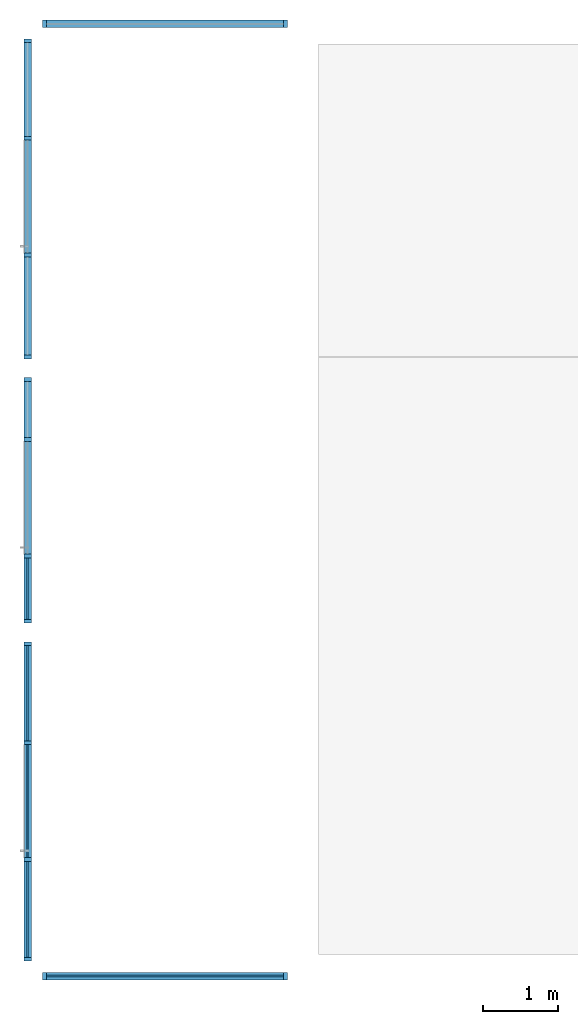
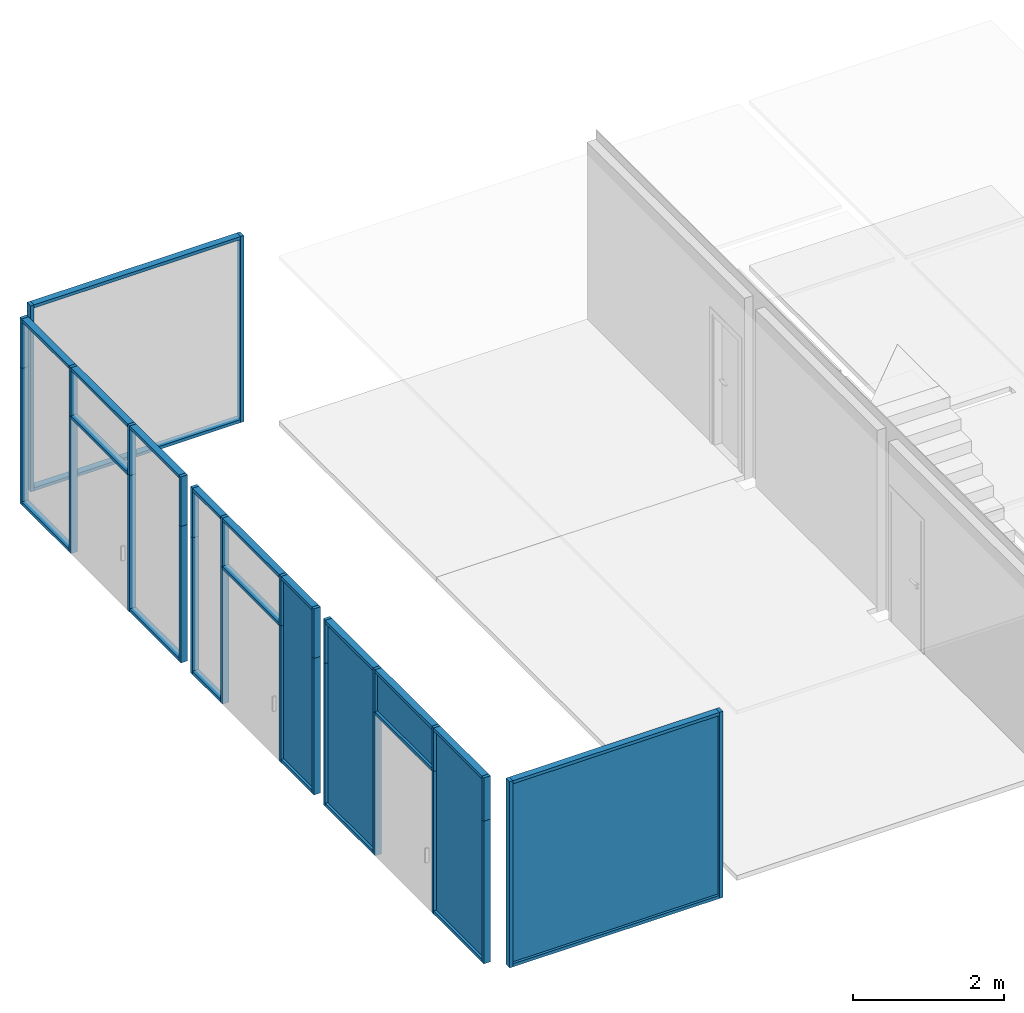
# One storey, part 1 of 4: 50 members, 5 plates, 5 elements without a shape of their own.
"""IFC2X3 building model written with IfcOpenShell, lengths in metres."""

from ifc_helpers import new_model, entity, si_unit, converted_unit, derived_unit, direction, frame, frame_2d, origin, origin_2d_with_axis, place, context, subcontext, project, spatial, rectangle, extrude, source, transform, mapped, material, type_object, type_shapes, element, aggregate, save


model = new_model("IFC2X3")

# Units and contexts
model_context = context("Model", 3, precision=1e-05, world=origin(), true_north=direction((6.12303176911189e-17, 1.0)))
context_of_model = context(None, 3, precision=1e-05, world=origin(), true_north=direction((6.12303176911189e-17, 1.0)))
body_context = subcontext(model_context, "Body", "Model", "MODEL_VIEW")
ifc_project = project(units=[si_unit("LENGTHUNIT", "METRE"), si_unit("AREAUNIT", "SQUARE_METRE"), si_unit("VOLUMEUNIT", "CUBIC_METRE"), converted_unit("PLANEANGLEUNIT", "DEGREE", entity("IfcRatioMeasure", 0.0174532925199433), si_unit("PLANEANGLEUNIT", "RADIAN"), dimensions=[0, 0, 0, 0, 0, 0, 0]), si_unit("MASSUNIT", "GRAM", prefix="KILO"), si_unit("TIMEUNIT", "SECOND"), si_unit("FREQUENCYUNIT", "HERTZ"), si_unit("THERMODYNAMICTEMPERATUREUNIT", "DEGREE_CELSIUS"), derived_unit("THERMALTRANSMITTANCEUNIT", [(si_unit("MASSUNIT", "GRAM", prefix="KILO"), 1), (si_unit("THERMODYNAMICTEMPERATUREUNIT", "KELVIN"), -1), (si_unit("TIMEUNIT", "SECOND"), -3)]), derived_unit("VOLUMETRICFLOWRATEUNIT", [(si_unit("LENGTHUNIT", "METRE"), 3), (si_unit("TIMEUNIT", "SECOND"), -1)]), si_unit("ELECTRICCURRENTUNIT", "AMPERE"), si_unit("ELECTRICVOLTAGEUNIT", "VOLT"), si_unit("POWERUNIT", "WATT"), si_unit("FORCEUNIT", "NEWTON", prefix="KILO"), si_unit("ILLUMINANCEUNIT", "LUX"), si_unit("LUMINOUSFLUXUNIT", "LUMEN"), si_unit("LUMINOUSINTENSITYUNIT", "CANDELA"), si_unit("PRESSUREUNIT", "PASCAL")], contexts=[model_context, context_of_model])

# Site, building, storey
site_placement = place(None, origin())
site = spatial("IfcSite", under=ifc_project, at=site_placement, Name="Default", CompositionType="ELEMENT")
building_placement = place(site_placement, origin())
building = spatial("IfcBuilding", under=site, at=building_placement, CompositionType="ELEMENT")
storey_placement = place(building_placement, frame((0.0, 0.0, 0.2)))
storey = spatial("IfcBuildingStorey", under=building, at=storey_placement, Name="01.AR.PLANTA BAJA ACAB.SUELO", CompositionType="ELEMENT", Elevation=0.2)

# Curtain wall, members
curtain_wall_type = type_object("IfcCurtainWallType", Name="Muro cortina:Muro cortina - simple", PredefinedType="NOTDEFINED")
curtain_wall_1_placement = place(storey_placement, frame((0.0, 0.0, -0.2)))
curtain_wall_1 = element("IfcCurtainWall", 1, at=curtain_wall_1_placement, inside=storey, type_object=curtain_wall_type, Name="Muro cortina:Muro cortina - simple", ObjectType="Muro cortina:Muro cortina - simple")
member_1_placement = place(curtain_wall_1_placement, frame((0.0, 0.0, 0.2)))
member_1 = element("IfcMember", 2, at=member_1_placement, Name="Muro cortina:Muro cortina - simple", ObjectType="Muro cortina:Muro cortina - simple", context=body_context, shape_type="SweptSolid", body=[
    extrude(rectangle(XDim=0.05, YDim=0.1, at=frame_2d((0.0, -6.93889390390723e-17), x_axis=(1.0, 0.0))), frame((0.750000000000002, 0.524999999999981, 3.0), z_axis=(0.0, 0.0, -1.0), x_axis=(-1.0, 0.0, 0.0)), (0.0, 0.0, 1.0), 3.0),
])
member_2_placement = place(curtain_wall_1_placement, frame((0.0, 0.0, 0.2)))
member_2 = element("IfcMember", 3, at=member_2_placement, Name="Muro cortina:Muro cortina - simple", ObjectType="Muro cortina:Muro cortina - simple", context=body_context, shape_type="SweptSolid", body=[
    extrude(rectangle(XDim=0.05, YDim=0.1, at=frame_2d((2.70616862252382e-16, 1.01516017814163e-14), x_axis=(1.0, 0.0))), frame((3.92499999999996, 0.524999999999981, 2.975), z_axis=(-1.0, 0.0, 0.0), x_axis=(0.0, 0.0, -1.0)), (0.0, 0.0, 1.0), 3.14999999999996),
])
member_3_placement = place(curtain_wall_1_placement, frame((0.0, 0.0, 0.2)))
member_3 = element("IfcMember", 4, at=member_3_placement, Name="Muro cortina:Muro cortina - simple", ObjectType="Muro cortina:Muro cortina - simple", context=body_context, shape_type="SweptSolid", body=[
    extrude(rectangle(XDim=0.05, YDim=0.1, at=frame_2d((2.70616862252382e-16, 0.0), x_axis=(1.0, 0.0))), frame((3.94999999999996, 0.52499999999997, 0.0), z_axis=(0.0, 0.0, 1.0), x_axis=(-1.0, 0.0, 0.0)), (0.0, 0.0, 1.0), 3.0),
])
member_4_placement = place(curtain_wall_1_placement, frame((0.0, 0.0, 0.2)))
member_4 = element("IfcMember", 5, at=member_4_placement, Name="Muro cortina:Muro cortina - simple", ObjectType="Muro cortina:Muro cortina - simple", context=body_context, shape_type="SweptSolid", body=[
    extrude(rectangle(XDim=0.05, YDim=0.1, at=frame_2d((0.0, 1.01516017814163e-14), x_axis=(1.0, 0.0))), frame((0.775000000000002, 0.52499999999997, 0.025), z_axis=(1.0, 0.0, 0.0), x_axis=(0.0, 0.0, -1.0)), (0.0, 0.0, 1.0), 3.14999999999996),
])

curtain_wall_2_placement = place(storey_placement, frame((0.0, 0.0, -0.2)))
curtain_wall_2 = element("IfcCurtainWall", 6, at=curtain_wall_2_placement, inside=storey, type_object=curtain_wall_type, Name="Muro cortina:Muro cortina - simple", ObjectType="Muro cortina:Muro cortina - simple")
member_5_placement = place(curtain_wall_2_placement, frame((0.0, 0.0, 0.2)))
member_5 = element("IfcMember", 7, at=member_5_placement, Name="Muro cortina:Muro cortina - simple", ObjectType="Muro cortina:Muro cortina - simple", context=body_context, shape_type="SweptSolid", body=[
    extrude(rectangle(XDim=0.1, YDim=0.05, at=frame_2d((3.46944695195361e-17, 0.0), x_axis=(1.0, 0.0))), frame((0.524999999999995, 0.750000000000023, 3.0), z_axis=(0.0, 0.0, -1.0), x_axis=(-1.0, 0.0, 0.0)), (0.0, 0.0, 1.0), 0.7),
])
member_6_placement = place(curtain_wall_2_placement, frame((0.0, 0.0, 0.2)))
member_6 = element("IfcMember", 8, at=member_6_placement, Name="Muro cortina:Muro cortina - simple", ObjectType="Muro cortina:Muro cortina - simple", context=body_context, shape_type="SweptSolid", body=[
    extrude(rectangle(XDim=0.05, YDim=0.1, at=frame_2d((2.70616862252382e-16, 0.0), x_axis=(1.0, 0.0))), frame((0.525000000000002, 4.91506108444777, 2.975), z_axis=(0.0, -1.0, 0.0), x_axis=(0.0, 0.0, -1.0)), (0.0, 0.0, 1.0), 1.265),
])
member_7_placement = place(curtain_wall_2_placement, frame((0.0, 0.0, 0.2)))
member_7 = element("IfcMember", 9, at=member_7_placement, Name="Muro cortina:Muro cortina - simple", ObjectType="Muro cortina:Muro cortina - simple", context=body_context, shape_type="SweptSolid", body=[
    extrude(rectangle(XDim=0.1, YDim=0.0500000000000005, at=frame_2d((-3.46944695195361e-17, -5.41233724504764e-16), x_axis=(1.0, 0.0))), frame((0.525000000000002, 4.94006108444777, 0.0), z_axis=(0.0, 0.0, 1.0), x_axis=(-1.0, 0.0, 0.0)), (0.0, 0.0, 1.0), 2.3),
])
member_8_placement = place(curtain_wall_2_placement, frame((0.0, 0.0, 0.2)))
member_8 = element("IfcMember", 10, at=member_8_placement, Name="Muro cortina:Muro cortina - simple", ObjectType="Muro cortina:Muro cortina - simple", context=body_context, shape_type="SweptSolid", body=[
    extrude(rectangle(XDim=0.05, YDim=0.1, at=origin_2d_with_axis()), frame((0.524999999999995, 0.775000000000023, 0.025), z_axis=(0.0, 1.0, 0.0), x_axis=(0.0, 0.0, -1.0)), (0.0, 0.0, 1.0), 1.27506108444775),
])
member_9_placement = place(curtain_wall_2_placement, frame((0.0, 0.0, 0.2)))
member_9 = element("IfcMember", 11, at=member_9_placement, Name="Muro cortina:Muro cortina - simple", ObjectType="Muro cortina:Muro cortina - simple", context=body_context, shape_type="SweptSolid", body=[
    extrude(rectangle(XDim=0.05, YDim=0.1, at=origin_2d_with_axis()), frame((0.525, 3.65006108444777, 0.025), z_axis=(0.0, 1.0, 0.0), x_axis=(0.0, 0.0, -1.0)), (0.0, 0.0, 1.0), 1.265),
])
member_10_placement = place(curtain_wall_2_placement, frame((0.0, 0.0, 0.2)))
member_10 = element("IfcMember", 12, at=member_10_placement, Name="Muro cortina:Muro cortina - simple", ObjectType="Muro cortina:Muro cortina - simple", context=body_context, shape_type="SweptSolid", body=[
    extrude(rectangle(XDim=0.05, YDim=0.1, at=frame_2d((2.70616862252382e-16, 0.0), x_axis=(1.0, 0.0))), frame((0.524999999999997, 2.05006108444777, 2.975), z_axis=(0.0, -1.0, 0.0), x_axis=(0.0, 0.0, -1.0)), (0.0, 0.0, 1.0), 1.27506108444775),
])
member_11_placement = place(curtain_wall_2_placement, frame((0.0, 0.0, 0.2)))
member_11 = element("IfcMember", 13, at=member_11_placement, Name="Muro cortina:Muro cortina - simple", ObjectType="Muro cortina:Muro cortina - simple", context=body_context, shape_type="SweptSolid", body=[
    extrude(rectangle(XDim=0.1, YDim=0.0499999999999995, at=origin_2d_with_axis()), frame((0.525, 3.62506108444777, 0.0), z_axis=(0.0, 0.0, 1.0), x_axis=(-1.0, 0.0, 0.0)), (0.0, 0.0, 1.0), 2.3),
])
member_12_placement = place(curtain_wall_2_placement, frame((0.0, 0.0, 0.2)))
member_12 = element("IfcMember", 14, at=member_12_placement, Name="Muro cortina:Muro cortina - simple", ObjectType="Muro cortina:Muro cortina - simple", context=body_context, shape_type="SweptSolid", body=[
    extrude(rectangle(XDim=0.1, YDim=0.05, at=frame_2d((0.0, 2.70616862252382e-16), x_axis=(1.0, 0.0))), frame((0.524999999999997, 2.07506108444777, 0.0), z_axis=(0.0, 0.0, 1.0), x_axis=(-1.0, 0.0, 0.0)), (0.0, 0.0, 1.0), 2.3),
])
member_13_placement = place(curtain_wall_2_placement, frame((0.0, 0.0, 0.2)))
member_13 = element("IfcMember", 15, at=member_13_placement, Name="Muro cortina:Muro cortina - simple", ObjectType="Muro cortina:Muro cortina - simple", context=body_context, shape_type="SweptSolid", body=[
    extrude(rectangle(XDim=0.05, YDim=0.1, at=frame_2d((2.70616862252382e-16, 0.0), x_axis=(1.0, 0.0))), frame((0.525, 3.60006108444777, 2.975), z_axis=(0.0, -1.0, 0.0), x_axis=(0.0, 0.0, -1.0)), (0.0, 0.0, 1.0), 1.49999999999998),
])
member_14_placement = place(curtain_wall_2_placement, frame((0.0, 0.0, 0.2)))
member_14 = element("IfcMember", 16, at=member_14_placement, Name="Muro cortina:Muro cortina - simple", ObjectType="Muro cortina:Muro cortina - simple", context=body_context, shape_type="SweptSolid", body=[
    extrude(rectangle(XDim=0.1, YDim=0.05, at=frame_2d((3.46944695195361e-17, 0.0), x_axis=(1.0, 0.0))), frame((0.524999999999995, 0.750000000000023, 2.3), z_axis=(0.0, 0.0, -1.0), x_axis=(-1.0, 0.0, 0.0)), (0.0, 0.0, 1.0), 2.3),
])
member_15_placement = place(curtain_wall_2_placement, frame((0.0, 0.0, 0.2)))
member_15 = element("IfcMember", 17, at=member_15_placement, Name="Muro cortina:Muro cortina - simple", ObjectType="Muro cortina:Muro cortina - simple", context=body_context, shape_type="SweptSolid", body=[
    extrude(rectangle(XDim=0.1, YDim=0.0500000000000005, at=frame_2d((-3.46944695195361e-17, -5.41233724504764e-16), x_axis=(1.0, 0.0))), frame((0.525000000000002, 4.94006108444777, 2.3), z_axis=(0.0, 0.0, 1.0), x_axis=(-1.0, 0.0, 0.0)), (0.0, 0.0, 1.0), 0.7),
])
member_16_placement = place(curtain_wall_2_placement, frame((0.0, 0.0, 0.2)))
member_16 = element("IfcMember", 18, at=member_16_placement, Name="Muro cortina:Muro cortina - simple", ObjectType="Muro cortina:Muro cortina - simple", context=body_context, shape_type="SweptSolid", body=[
    extrude(rectangle(XDim=0.1, YDim=0.0499999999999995, at=origin_2d_with_axis()), frame((0.525, 3.62506108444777, 2.3), z_axis=(0.0, 0.0, 1.0), x_axis=(-1.0, 0.0, 0.0)), (0.0, 0.0, 1.0), 0.7),
])
member_17_placement = place(curtain_wall_2_placement, frame((0.0, 0.0, 0.2)))
member_17 = element("IfcMember", 19, at=member_17_placement, Name="Muro cortina:Muro cortina - simple", ObjectType="Muro cortina:Muro cortina - simple", context=body_context, shape_type="SweptSolid", body=[
    extrude(rectangle(XDim=0.1, YDim=0.05, at=origin_2d_with_axis()), frame((0.524999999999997, 2.07506108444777, 2.3), z_axis=(0.0, 0.0, 1.0), x_axis=(-1.0, 0.0, 0.0)), (0.0, 0.0, 1.0), 0.7),
])
member_18_placement = place(curtain_wall_2_placement, frame((0.0, 0.0, 0.2)))
member_18 = element("IfcMember", 20, at=member_18_placement, Name="Muro cortina:Muro cortina - simple", ObjectType="Muro cortina:Muro cortina - simple", context=body_context, shape_type="SweptSolid", body=[
    extrude(rectangle(XDim=0.0499999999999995, YDim=0.1, at=origin_2d_with_axis()), frame((0.525, 3.60006108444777, 2.3), z_axis=(0.0, -1.0, 0.0), x_axis=(0.0, 0.0, -1.0)), (0.0, 0.0, 1.0), 1.49999999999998),
])

curtain_wall_3_placement = place(storey_placement, frame((0.0, 0.0, -0.2)))
curtain_wall_3 = element("IfcCurtainWall", 21, at=curtain_wall_3_placement, inside=storey, type_object=curtain_wall_type, Name="Muro cortina:Muro cortina - simple", ObjectType="Muro cortina:Muro cortina - simple")
member_19_placement = place(curtain_wall_3_placement, frame((0.0, 0.0, 0.2)))
member_19 = element("IfcMember", 22, at=member_19_placement, Name="Muro cortina:Muro cortina - simple", ObjectType="Muro cortina:Muro cortina - simple", context=body_context, shape_type="SweptSolid", body=[
    extrude(rectangle(XDim=0.1, YDim=0.0499999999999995, at=frame_2d((3.46944695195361e-17, 0.0), x_axis=(1.0, 0.0))), frame((0.525000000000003, 5.24006108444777, 3.0), z_axis=(0.0, 0.0, -1.0), x_axis=(-1.0, 0.0, 0.0)), (0.0, 0.0, 1.0), 0.8),
])
member_20_placement = place(curtain_wall_3_placement, frame((0.0, 0.0, 0.2)))
member_20 = element("IfcMember", 23, at=member_20_placement, Name="Muro cortina:Muro cortina - simple", ObjectType="Muro cortina:Muro cortina - simple", context=body_context, shape_type="SweptSolid", body=[
    extrude(rectangle(XDim=0.05, YDim=0.1, at=frame_2d((2.70616862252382e-16, 0.0), x_axis=(1.0, 0.0))), frame((0.525000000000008, 8.42500000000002, 2.975), z_axis=(0.0, -1.0, 0.0), x_axis=(0.0, 0.0, -1.0)), (0.0, 0.0, 1.0), 0.745000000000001),
])
member_21_placement = place(curtain_wall_3_placement, frame((0.0, 0.0, 0.2)))
member_21 = element("IfcMember", 24, at=member_21_placement, Name="Muro cortina:Muro cortina - simple", ObjectType="Muro cortina:Muro cortina - simple", context=body_context, shape_type="SweptSolid", body=[
    extrude(rectangle(XDim=0.1, YDim=0.0499999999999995, at=frame_2d((-3.46944695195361e-17, 0.0), x_axis=(1.0, 0.0))), frame((0.525000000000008, 8.45000000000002, 0.0), z_axis=(0.0, 0.0, 1.0), x_axis=(-1.0, 0.0, 0.0)), (0.0, 0.0, 1.0), 2.2),
])
member_22_placement = place(curtain_wall_3_placement, frame((0.0, 0.0, 0.2)))
member_22 = element("IfcMember", 25, at=member_22_placement, Name="Muro cortina:Muro cortina - simple", ObjectType="Muro cortina:Muro cortina - simple", context=body_context, shape_type="SweptSolid", body=[
    extrude(rectangle(XDim=0.05, YDim=0.1, at=origin_2d_with_axis()), frame((0.525000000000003, 5.26506108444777, 0.025), z_axis=(0.0, 1.0, 0.0), x_axis=(0.0, 0.0, -1.0)), (0.0, 0.0, 1.0), 0.814938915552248),
])
member_23_placement = place(curtain_wall_3_placement, frame((0.0, 0.0, 0.2)))
member_23 = element("IfcMember", 26, at=member_23_placement, Name="Muro cortina:Muro cortina - simple", ObjectType="Muro cortina:Muro cortina - simple", context=body_context, shape_type="SweptSolid", body=[
    extrude(rectangle(XDim=0.05, YDim=0.1, at=origin_2d_with_axis()), frame((0.525000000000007, 7.68000000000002, 0.025), z_axis=(0.0, 1.0, 0.0), x_axis=(0.0, 0.0, -1.0)), (0.0, 0.0, 1.0), 0.745000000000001),
])
member_24_placement = place(curtain_wall_3_placement, frame((0.0, 0.0, 0.2)))
member_24 = element("IfcMember", 27, at=member_24_placement, Name="Muro cortina:Muro cortina - simple", ObjectType="Muro cortina:Muro cortina - simple", context=body_context, shape_type="SweptSolid", body=[
    extrude(rectangle(XDim=0.05, YDim=0.1, at=frame_2d((2.70616862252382e-16, 0.0), x_axis=(1.0, 0.0))), frame((0.525000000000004, 6.08000000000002, 2.975), z_axis=(0.0, -1.0, 0.0), x_axis=(0.0, 0.0, -1.0)), (0.0, 0.0, 1.0), 0.814938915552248),
])
member_25_placement = place(curtain_wall_3_placement, frame((0.0, 0.0, 0.2)))
member_25 = element("IfcMember", 28, at=member_25_placement, Name="Muro cortina:Muro cortina - simple", ObjectType="Muro cortina:Muro cortina - simple", context=body_context, shape_type="SweptSolid", body=[
    extrude(rectangle(XDim=0.1, YDim=0.0499999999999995, at=origin_2d_with_axis()), frame((0.525000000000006, 7.65500000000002, 0.0), z_axis=(0.0, 0.0, 1.0), x_axis=(-1.0, 0.0, 0.0)), (0.0, 0.0, 1.0), 2.2),
])
member_26_placement = place(curtain_wall_3_placement, frame((0.0, 0.0, 0.2)))
member_26 = element("IfcMember", 29, at=member_26_placement, Name="Muro cortina:Muro cortina - simple", ObjectType="Muro cortina:Muro cortina - simple", context=body_context, shape_type="SweptSolid", body=[
    extrude(rectangle(XDim=0.1, YDim=0.0499999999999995, at=origin_2d_with_axis()), frame((0.525000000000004, 6.10500000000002, 0.0), z_axis=(0.0, 0.0, 1.0), x_axis=(-1.0, 0.0, 0.0)), (0.0, 0.0, 1.0), 2.2),
])
member_27_placement = place(curtain_wall_3_placement, frame((0.0, 0.0, 0.2)))
member_27 = element("IfcMember", 30, at=member_27_placement, Name="Muro cortina:Muro cortina - simple", ObjectType="Muro cortina:Muro cortina - simple", context=body_context, shape_type="SweptSolid", body=[
    extrude(rectangle(XDim=0.05, YDim=0.1, at=frame_2d((2.70616862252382e-16, 0.0), x_axis=(1.0, 0.0))), frame((0.525000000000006, 7.63000000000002, 2.975), z_axis=(0.0, -1.0, 0.0), x_axis=(0.0, 0.0, -1.0)), (0.0, 0.0, 1.0), 1.49999999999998),
])
member_28_placement = place(curtain_wall_3_placement, frame((0.0, 0.0, 0.2)))
member_28 = element("IfcMember", 31, at=member_28_placement, Name="Muro cortina:Muro cortina - simple", ObjectType="Muro cortina:Muro cortina - simple", context=body_context, shape_type="SweptSolid", body=[
    extrude(rectangle(XDim=0.1, YDim=0.0499999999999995, at=frame_2d((3.46944695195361e-17, 0.0), x_axis=(1.0, 0.0))), frame((0.525000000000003, 5.24006108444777, 2.2), z_axis=(0.0, 0.0, -1.0), x_axis=(-1.0, 0.0, 0.0)), (0.0, 0.0, 1.0), 2.2),
])
member_29_placement = place(curtain_wall_3_placement, frame((0.0, 0.0, 0.2)))
member_29 = element("IfcMember", 32, at=member_29_placement, Name="Muro cortina:Muro cortina - simple", ObjectType="Muro cortina:Muro cortina - simple", context=body_context, shape_type="SweptSolid", body=[
    extrude(rectangle(XDim=0.1, YDim=0.0499999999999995, at=frame_2d((-3.46944695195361e-17, 0.0), x_axis=(1.0, 0.0))), frame((0.525000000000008, 8.45000000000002, 2.2), z_axis=(0.0, 0.0, 1.0), x_axis=(-1.0, 0.0, 0.0)), (0.0, 0.0, 1.0), 0.8),
])
member_30_placement = place(curtain_wall_3_placement, frame((0.0, 0.0, 0.2)))
member_30 = element("IfcMember", 33, at=member_30_placement, Name="Muro cortina:Muro cortina - simple", ObjectType="Muro cortina:Muro cortina - simple", context=body_context, shape_type="SweptSolid", body=[
    extrude(rectangle(XDim=0.1, YDim=0.0499999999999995, at=origin_2d_with_axis()), frame((0.525000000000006, 7.65500000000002, 2.2), z_axis=(0.0, 0.0, 1.0), x_axis=(-1.0, 0.0, 0.0)), (0.0, 0.0, 1.0), 0.8),
])
member_31_placement = place(curtain_wall_3_placement, frame((0.0, 0.0, 0.2)))
member_31 = element("IfcMember", 34, at=member_31_placement, Name="Muro cortina:Muro cortina - simple", ObjectType="Muro cortina:Muro cortina - simple", context=body_context, shape_type="SweptSolid", body=[
    extrude(rectangle(XDim=0.1, YDim=0.0499999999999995, at=origin_2d_with_axis()), frame((0.525000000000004, 6.10500000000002, 2.2), z_axis=(0.0, 0.0, 1.0), x_axis=(-1.0, 0.0, 0.0)), (0.0, 0.0, 1.0), 0.8),
])
member_32_placement = place(curtain_wall_3_placement, frame((0.0, 0.0, 0.2)))
member_32 = element("IfcMember", 35, at=member_32_placement, Name="Muro cortina:Muro cortina - simple", ObjectType="Muro cortina:Muro cortina - simple", context=body_context, shape_type="SweptSolid", body=[
    extrude(rectangle(XDim=0.05, YDim=0.1, at=origin_2d_with_axis()), frame((0.525000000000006, 7.63000000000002, 2.2), z_axis=(0.0, -1.0, 0.0), x_axis=(0.0, 0.0, -1.0)), (0.0, 0.0, 1.0), 1.49999999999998),
])

curtain_wall_4_placement = place(storey_placement, frame((0.0, 0.0, -0.2)))
curtain_wall_4 = element("IfcCurtainWall", 36, at=curtain_wall_4_placement, inside=storey, type_object=curtain_wall_type, Name="Muro cortina:Muro cortina - simple", ObjectType="Muro cortina:Muro cortina - simple")
member_33_placement = place(curtain_wall_4_placement, frame((0.0, 0.0, 0.2)))
member_33 = element("IfcMember", 37, at=member_33_placement, Name="Muro cortina:Muro cortina - simple", ObjectType="Muro cortina:Muro cortina - simple", context=body_context, shape_type="SweptSolid", body=[
    extrude(rectangle(XDim=0.1, YDim=0.0499999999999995, at=frame_2d((3.46944695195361e-17, 0.0), x_axis=(1.0, 0.0))), frame((0.525000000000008, 8.75000000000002, 3.0), z_axis=(0.0, 0.0, -1.0), x_axis=(-1.0, 0.0, 0.0)), (0.0, 0.0, 1.0), 0.8),
])
member_34_placement = place(curtain_wall_4_placement, frame((0.0, 0.0, 0.2)))
member_34 = element("IfcMember", 38, at=member_34_placement, Name="Muro cortina:Muro cortina - simple", ObjectType="Muro cortina:Muro cortina - simple", context=body_context, shape_type="SweptSolid", body=[
    extrude(rectangle(XDim=0.05, YDim=0.1, at=frame_2d((2.70616862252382e-16, 0.0), x_axis=(1.0, 0.0))), frame((0.525000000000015, 12.925, 2.975), z_axis=(0.0, -1.0, 0.0), x_axis=(0.0, 0.0, -1.0)), (0.0, 0.0, 1.0), 1.245),
])
member_35_placement = place(curtain_wall_4_placement, frame((0.0, 0.0, 0.2)))
member_35 = element("IfcMember", 39, at=member_35_placement, Name="Muro cortina:Muro cortina - simple", ObjectType="Muro cortina:Muro cortina - simple", context=body_context, shape_type="SweptSolid", body=[
    extrude(rectangle(XDim=0.1, YDim=0.0499999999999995, at=frame_2d((-3.46944695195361e-17, 1.08246744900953e-15), x_axis=(1.0, 0.0))), frame((0.525000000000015, 12.95, 0.0), z_axis=(0.0, 0.0, 1.0), x_axis=(-1.0, 0.0, 0.0)), (0.0, 0.0, 1.0), 2.2),
])
member_36_placement = place(curtain_wall_4_placement, frame((0.0, 0.0, 0.2)))
member_36 = element("IfcMember", 40, at=member_36_placement, Name="Muro cortina:Muro cortina - simple", ObjectType="Muro cortina:Muro cortina - simple", context=body_context, shape_type="SweptSolid", body=[
    extrude(rectangle(XDim=0.05, YDim=0.1, at=origin_2d_with_axis()), frame((0.525000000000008, 8.77500000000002, 0.025), z_axis=(0.0, 1.0, 0.0), x_axis=(0.0, 0.0, -1.0)), (0.0, 0.0, 1.0), 1.305),
])
member_37_placement = place(curtain_wall_4_placement, frame((0.0, 0.0, 0.2)))
member_37 = element("IfcMember", 41, at=member_37_placement, Name="Muro cortina:Muro cortina - simple", ObjectType="Muro cortina:Muro cortina - simple", context=body_context, shape_type="SweptSolid", body=[
    extrude(rectangle(XDim=0.05, YDim=0.1, at=origin_2d_with_axis()), frame((0.525000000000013, 11.68, 0.025), z_axis=(0.0, 1.0, 0.0), x_axis=(0.0, 0.0, -1.0)), (0.0, 0.0, 1.0), 1.245),
])
member_38_placement = place(curtain_wall_4_placement, frame((0.0, 0.0, 0.2)))
member_38 = element("IfcMember", 42, at=member_38_placement, Name="Muro cortina:Muro cortina - simple", ObjectType="Muro cortina:Muro cortina - simple", context=body_context, shape_type="SweptSolid", body=[
    extrude(rectangle(XDim=0.05, YDim=0.1, at=frame_2d((2.70616862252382e-16, 0.0), x_axis=(1.0, 0.0))), frame((0.52500000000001, 10.08, 2.975), z_axis=(0.0, -1.0, 0.0), x_axis=(0.0, 0.0, -1.0)), (0.0, 0.0, 1.0), 1.305),
])
member_39_placement = place(curtain_wall_4_placement, frame((0.0, 0.0, 0.2)))
member_39 = element("IfcMember", 43, at=member_39_placement, Name="Muro cortina:Muro cortina - simple", ObjectType="Muro cortina:Muro cortina - simple", context=body_context, shape_type="SweptSolid", body=[
    extrude(rectangle(XDim=0.1, YDim=0.0500000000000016, at=origin_2d_with_axis()), frame((0.525000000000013, 11.655, 0.0), z_axis=(0.0, 0.0, 1.0), x_axis=(-1.0, 0.0, 0.0)), (0.0, 0.0, 1.0), 2.2),
])
member_40_placement = place(curtain_wall_4_placement, frame((0.0, 0.0, 0.2)))
member_40 = element("IfcMember", 44, at=member_40_placement, Name="Muro cortina:Muro cortina - simple", ObjectType="Muro cortina:Muro cortina - simple", context=body_context, shape_type="SweptSolid", body=[
    extrude(rectangle(XDim=0.1, YDim=0.0500000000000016, at=origin_2d_with_axis()), frame((0.52500000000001, 10.105, 0.0), z_axis=(0.0, 0.0, 1.0), x_axis=(-1.0, 0.0, 0.0)), (0.0, 0.0, 1.0), 2.2),
])
member_41_placement = place(curtain_wall_4_placement, frame((0.0, 0.0, 0.2)))
member_41 = element("IfcMember", 45, at=member_41_placement, Name="Muro cortina:Muro cortina - simple", ObjectType="Muro cortina:Muro cortina - simple", context=body_context, shape_type="SweptSolid", body=[
    extrude(rectangle(XDim=0.05, YDim=0.1, at=frame_2d((2.70616862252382e-16, 0.0), x_axis=(1.0, 0.0))), frame((0.525000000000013, 11.63, 2.975), z_axis=(0.0, -1.0, 0.0), x_axis=(0.0, 0.0, -1.0)), (0.0, 0.0, 1.0), 1.49999999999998),
])
member_42_placement = place(curtain_wall_4_placement, frame((0.0, 0.0, 0.2)))
member_42 = element("IfcMember", 46, at=member_42_placement, Name="Muro cortina:Muro cortina - simple", ObjectType="Muro cortina:Muro cortina - simple", context=body_context, shape_type="SweptSolid", body=[
    extrude(rectangle(XDim=0.1, YDim=0.0499999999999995, at=frame_2d((3.46944695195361e-17, 0.0), x_axis=(1.0, 0.0))), frame((0.525000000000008, 8.75000000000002, 2.2), z_axis=(0.0, 0.0, -1.0), x_axis=(-1.0, 0.0, 0.0)), (0.0, 0.0, 1.0), 2.2),
])
member_43_placement = place(curtain_wall_4_placement, frame((0.0, 0.0, 0.2)))
member_43 = element("IfcMember", 47, at=member_43_placement, Name="Muro cortina:Muro cortina - simple", ObjectType="Muro cortina:Muro cortina - simple", context=body_context, shape_type="SweptSolid", body=[
    extrude(rectangle(XDim=0.1, YDim=0.0499999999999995, at=frame_2d((-3.46944695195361e-17, 1.08246744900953e-15), x_axis=(1.0, 0.0))), frame((0.525000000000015, 12.95, 2.2), z_axis=(0.0, 0.0, 1.0), x_axis=(-1.0, 0.0, 0.0)), (0.0, 0.0, 1.0), 0.8),
])
member_44_placement = place(curtain_wall_4_placement, frame((0.0, 0.0, 0.2)))
member_44 = element("IfcMember", 48, at=member_44_placement, Name="Muro cortina:Muro cortina - simple", ObjectType="Muro cortina:Muro cortina - simple", context=body_context, shape_type="SweptSolid", body=[
    extrude(rectangle(XDim=0.1, YDim=0.0500000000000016, at=origin_2d_with_axis()), frame((0.525000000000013, 11.655, 2.2), z_axis=(0.0, 0.0, 1.0), x_axis=(-1.0, 0.0, 0.0)), (0.0, 0.0, 1.0), 0.8),
])
member_45_placement = place(curtain_wall_4_placement, frame((0.0, 0.0, 0.2)))
member_45 = element("IfcMember", 49, at=member_45_placement, Name="Muro cortina:Muro cortina - simple", ObjectType="Muro cortina:Muro cortina - simple", context=body_context, shape_type="SweptSolid", body=[
    extrude(rectangle(XDim=0.1, YDim=0.0500000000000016, at=origin_2d_with_axis()), frame((0.52500000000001, 10.105, 2.2), z_axis=(0.0, 0.0, 1.0), x_axis=(-1.0, 0.0, 0.0)), (0.0, 0.0, 1.0), 0.8),
])
member_46_placement = place(curtain_wall_4_placement, frame((0.0, 0.0, 0.2)))
member_46 = element("IfcMember", 50, at=member_46_placement, Name="Muro cortina:Muro cortina - simple", ObjectType="Muro cortina:Muro cortina - simple", context=body_context, shape_type="SweptSolid", body=[
    extrude(rectangle(XDim=0.05, YDim=0.1, at=origin_2d_with_axis()), frame((0.525000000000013, 11.63, 2.2), z_axis=(0.0, -1.0, 0.0), x_axis=(0.0, 0.0, -1.0)), (0.0, 0.0, 1.0), 1.49999999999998),
])
aggregate(curtain_wall_4, [member_33, member_34, member_35, member_36, member_37, member_38, member_39, member_40, member_41, member_42, member_43, member_44, member_45, member_46])

curtain_wall_5_placement = place(storey_placement, frame((0.0, 0.0, -0.2)))
curtain_wall_5 = element("IfcCurtainWall", 51, at=curtain_wall_5_placement, inside=storey, type_object=curtain_wall_type, Name="Muro cortina:Muro cortina - simple", ObjectType="Muro cortina:Muro cortina - simple")
member_47_placement = place(curtain_wall_5_placement, frame((0.0, 0.0, 0.2)))
member_47 = element("IfcMember", 52, at=member_47_placement, Name="Muro cortina:Muro cortina - simple", ObjectType="Muro cortina:Muro cortina - simple", context=body_context, shape_type="SweptSolid", body=[
    extrude(rectangle(XDim=0.05, YDim=0.0999999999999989, at=frame_2d((0.0, 2.16493489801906e-15), x_axis=(1.0, 0.0))), frame((0.775000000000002, 13.175, 0.025), z_axis=(1.0, 0.0, 0.0), x_axis=(0.0, 0.0, -1.0)), (0.0, 0.0, 1.0), 3.14999999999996),
])
member_48_placement = place(curtain_wall_5_placement, frame((0.0, 0.0, 0.2)))
member_48 = element("IfcMember", 53, at=member_48_placement, Name="Muro cortina:Muro cortina - simple", ObjectType="Muro cortina:Muro cortina - simple", context=body_context, shape_type="SweptSolid", body=[
    extrude(rectangle(XDim=0.05, YDim=0.0999999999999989, at=frame_2d((2.70616862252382e-16, 0.0), x_axis=(1.0, 0.0))), frame((3.94999999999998, 13.175, 0.0), z_axis=(0.0, 0.0, 1.0), x_axis=(-1.0, 0.0, 0.0)), (0.0, 0.0, 1.0), 3.0),
])
member_49_placement = place(curtain_wall_5_placement, frame((0.0, 0.0, 0.2)))
member_49 = element("IfcMember", 54, at=member_49_placement, Name="Muro cortina:Muro cortina - simple", ObjectType="Muro cortina:Muro cortina - simple", context=body_context, shape_type="SweptSolid", body=[
    extrude(rectangle(XDim=0.05, YDim=0.0999999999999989, at=frame_2d((0.0, 2.16493489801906e-15), x_axis=(1.0, 0.0))), frame((0.750000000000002, 13.175, 3.0), z_axis=(0.0, 0.0, -1.0), x_axis=(-1.0, 0.0, 0.0)), (0.0, 0.0, 1.0), 3.0),
])
member_50_placement = place(curtain_wall_5_placement, frame((0.0, 0.0, 0.2)))
member_50 = element("IfcMember", 55, at=member_50_placement, Name="Muro cortina:Muro cortina - simple", ObjectType="Muro cortina:Muro cortina - simple", context=body_context, shape_type="SweptSolid", body=[
    extrude(rectangle(XDim=0.05, YDim=0.0999999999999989, at=frame_2d((2.70616862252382e-16, 0.0), x_axis=(1.0, 0.0))), frame((3.92499999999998, 13.175, 2.975), z_axis=(-1.0, 0.0, 0.0), x_axis=(0.0, 0.0, -1.0)), (0.0, 0.0, 1.0), 3.14999999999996),
])
aggregate(curtain_wall_5, [member_47, member_48, member_49, member_50])

# Plate
ifc_material = material(Name="Cristal")
plate_type_1 = type_object("IfcPlateType", Name="Acristalado", PredefinedType="CURTAIN_PANEL", material=ifc_material)
shared_shape_1 = source(origin(), body_context, "Body", "SweptSolid", [
    extrude(rectangle(XDim=0.02, YDim=3.14999999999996, at=origin_2d_with_axis()), frame((0.0, 0.0, 0.0), z_axis=(0.0, 0.0, 1.0), x_axis=(0.0, 1.0, 0.0)), (0.0, 0.0, 1.0), 2.9),
])
type_shapes(plate_type_1, [shared_shape_1])
plate_1_placement = place(curtain_wall_1_placement, frame((2.34999999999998, 0.524999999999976, 0.25)))
plate_1 = element("IfcPlate", 56, at=plate_1_placement, type_object=plate_type_1, material=ifc_material, Name="Panel de sistema:Acristalado", ObjectType="Acristalado", context=body_context, shape_type="MappedRepresentation", body=[
    mapped(shared_shape_1, transform((0.0, 0.0, 0.0), scale=1.0)),
])

aggregate(curtain_wall_1, [plate_1, member_1, member_2, member_3, member_4])

plate_type_2 = type_object("IfcPlateType", Name="Acristalado", PredefinedType="CURTAIN_PANEL", material=ifc_material)
shared_shape_2 = source(origin(), body_context, "Body", "SweptSolid", [
    extrude(rectangle(XDim=2.9, YDim=1.27506108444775, at=frame_2d((-0.266666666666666, 0.0), x_axis=(1.0, 0.0))), frame((0.0, -0.01, 1.71666666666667), z_axis=(0.0, 1.0, 0.0), x_axis=(0.0, 0.0, 1.0)), (0.0, 0.0, 1.0), 0.02),
])
type_shapes(plate_type_2, [shared_shape_2])
plate_2_placement = place(curtain_wall_2_placement, frame((0.524999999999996, 1.4125305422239, 0.25), z_axis=(0.0, 0.0, 1.0), x_axis=(0.0, 1.0, 0.0)))
plate_2 = element("IfcPlate", 57, at=plate_2_placement, type_object=plate_type_2, material=ifc_material, Name="Panel de sistema:Acristalado", ObjectType="Acristalado", context=body_context, shape_type="MappedRepresentation", body=[
    mapped(shared_shape_2, transform((0.0, 0.0, 0.0), scale=1.0)),
])

plate_type_3 = type_object("IfcPlateType", Name="Acristalado", PredefinedType="CURTAIN_PANEL", material=ifc_material)
shared_shape_3 = source(origin(), body_context, "Body", "SweptSolid", [
    extrude(rectangle(XDim=2.9, YDim=1.265, at=frame_2d((-0.266666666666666, 0.0), x_axis=(1.0, 0.0))), frame((0.0, -0.00999999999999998, 1.71666666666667), z_axis=(0.0, 1.0, 0.0), x_axis=(0.0, 0.0, 1.0)), (0.0, 0.0, 1.0), 0.02),
])
type_shapes(plate_type_3, [shared_shape_3])
plate_3_placement = place(curtain_wall_2_placement, frame((0.525000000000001, 4.28256108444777, 0.25), z_axis=(0.0, 0.0, 1.0), x_axis=(0.0, 1.0, 0.0)))
plate_3 = element("IfcPlate", 58, at=plate_3_placement, type_object=plate_type_3, material=ifc_material, Name="Panel de sistema:Acristalado", ObjectType="Acristalado", context=body_context, shape_type="MappedRepresentation", body=[
    mapped(shared_shape_3, transform((0.0, 0.0, 0.0), scale=1.0)),
])

plate_type_4 = type_object("IfcPlateType", Name="Acristalado", PredefinedType="CURTAIN_PANEL", material=ifc_material)
shared_shape_4 = source(origin(), body_context, "Body", "SweptSolid", [
    extrude(rectangle(XDim=0.02, YDim=1.5, at=origin_2d_with_axis()), frame((0.0, 0.0, 0.0), z_axis=(0.0, 0.0, 1.0), x_axis=(0.0, 1.0, 0.0)), (0.0, 0.0, 1.0), 0.625),
])
type_shapes(plate_type_4, [shared_shape_4])
plate_4_placement = place(curtain_wall_2_placement, frame((0.524999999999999, 2.85006108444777, 2.525), z_axis=(0.0, 0.0, 1.0), x_axis=(0.0, 1.0, 0.0)))
plate_4 = element("IfcPlate", 59, at=plate_4_placement, type_object=plate_type_4, material=ifc_material, Name="Panel de sistema:Acristalado", ObjectType="Acristalado", context=body_context, shape_type="MappedRepresentation", body=[
    mapped(shared_shape_4, transform((0.0, 0.0, 0.0), scale=1.0)),
])

aggregate(curtain_wall_2, [plate_2, plate_3, plate_4, member_5, member_6, member_7, member_8, member_9, member_10, member_11, member_12, member_13, member_14, member_15, member_16, member_17, member_18])

plate_type_5 = type_object("IfcPlateType", Name="Acristalado", PredefinedType="CURTAIN_PANEL", material=ifc_material)
shared_shape_5 = source(origin(), body_context, "Body", "SweptSolid", [
    extrude(rectangle(XDim=2.9, YDim=0.814938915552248, at=frame_2d((-0.233333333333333, 0.0), x_axis=(1.0, 0.0))), frame((0.0, -0.01, 1.68333333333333), z_axis=(0.0, 1.0, 0.0), x_axis=(0.0, 0.0, 1.0)), (0.0, 0.0, 1.0), 0.02),
])
type_shapes(plate_type_5, [shared_shape_5])
plate_5_placement = place(curtain_wall_3_placement, frame((0.525000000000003, 5.6725305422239, 0.25), z_axis=(0.0, 0.0, 1.0), x_axis=(0.0, 1.0, 0.0)))
plate_5 = element("IfcPlate", 60, at=plate_5_placement, type_object=plate_type_5, material=ifc_material, Name="Panel de sistema:Acristalado", ObjectType="Acristalado", context=body_context, shape_type="MappedRepresentation", body=[
    mapped(shared_shape_5, transform((0.0, 0.0, 0.0), scale=1.0)),
])

aggregate(curtain_wall_3, [plate_5, member_19, member_20, member_21, member_22, member_23, member_24, member_25, member_26, member_27, member_28, member_29, member_30, member_31, member_32])

save(model, "model.ifc")
